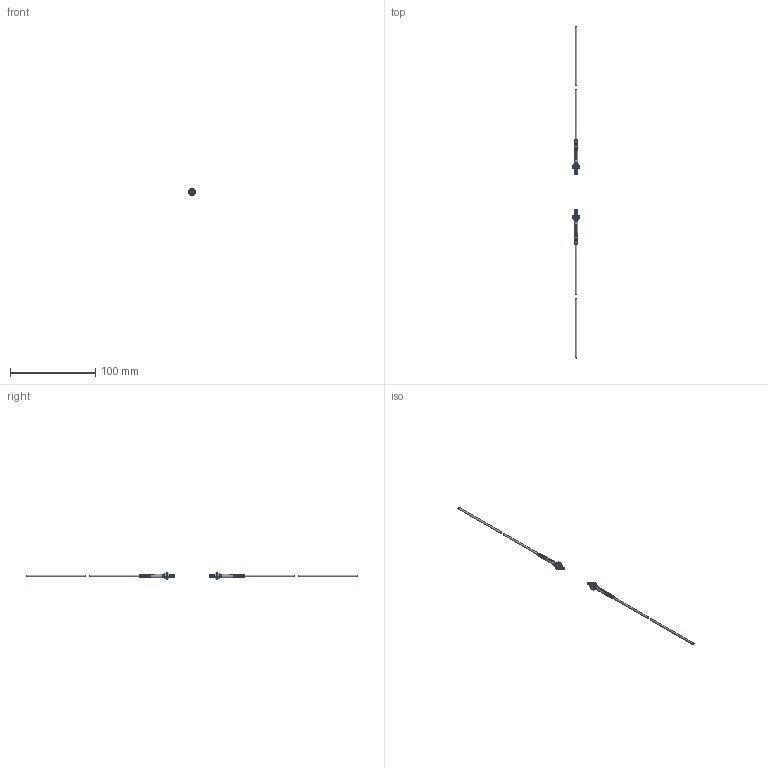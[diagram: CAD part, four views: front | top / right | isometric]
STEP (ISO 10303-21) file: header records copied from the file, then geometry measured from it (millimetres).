
FILE_DESCRIPTION(/* description */ (''),/* implementation_level */ '2;1');
FILE_NAME(/* name */ 'FFT-410',/* time_stamp */ '2022-03-04T14:15:25+08:00',/* author */ (''),/* organization */ (''),/* preprocessor_version */ 'ST-DEVELOPER v9',/* originating_system */ 'UGS - NX 4.0',/* authorisation */ '');
FILE_SCHEMA (('CONFIG_CONTROL_DESIGN'));
Products named in the file (1): FFT-410
Bounding box: 8.8 x 390.4 x 8.8 mm (x, y, z)
Volume: 1749.4 mm3; surface area: 4935.4 mm2
Topology: 14 solids, 16 shells, 496 faces, 1536 edges, 1030 vertices
Faces by surface type: plane 194, cylinder 166, extrusion 92, bspline 22, cone 22
Full cylindrical faces by diameter (mm): 2.1 x12, 2.2 x4, 3 x4, 8.8 x4
Entity records: 45300 total; most frequent: CARTESIAN_POINT 33329, ORIENTED_EDGE 2756, DIRECTION 1884, EDGE_CURVE 1378, VERTEX_POINT 936, B_SPLINE_CURVE_WITH_KNOTS 758, AXIS2_PLACEMENT_3D 709, EDGE_LOOP 642
